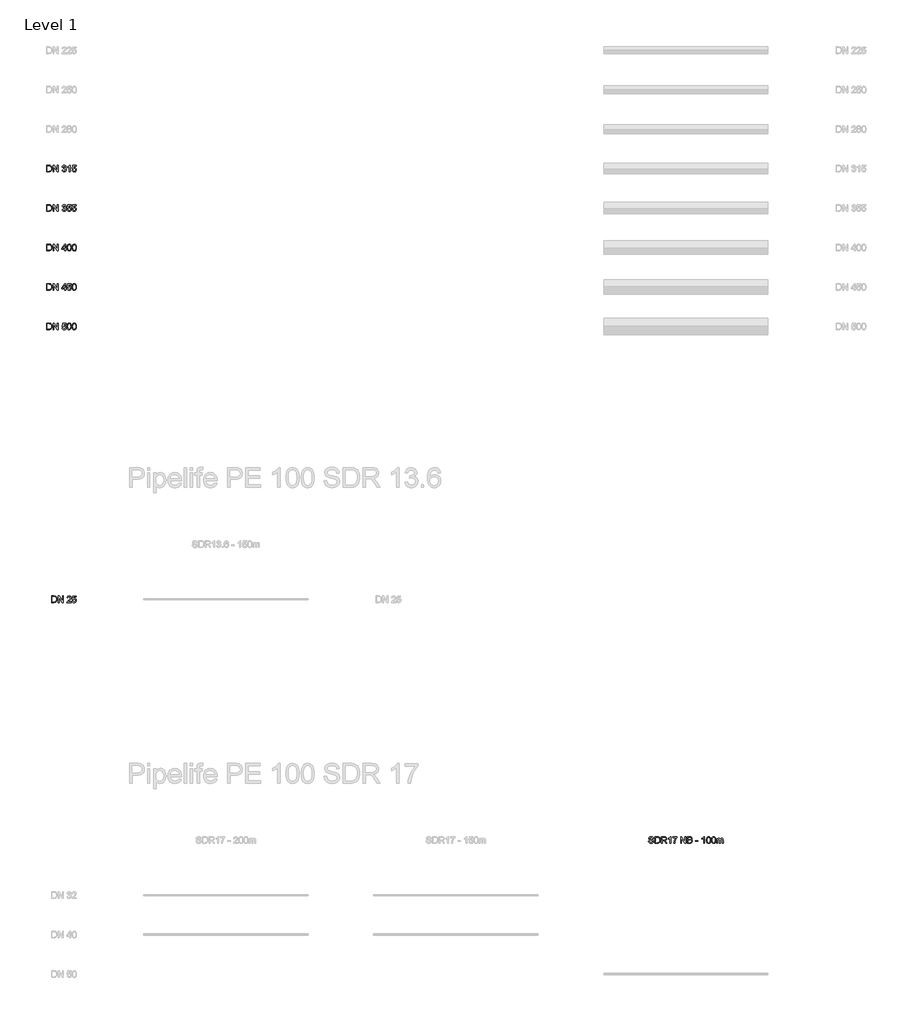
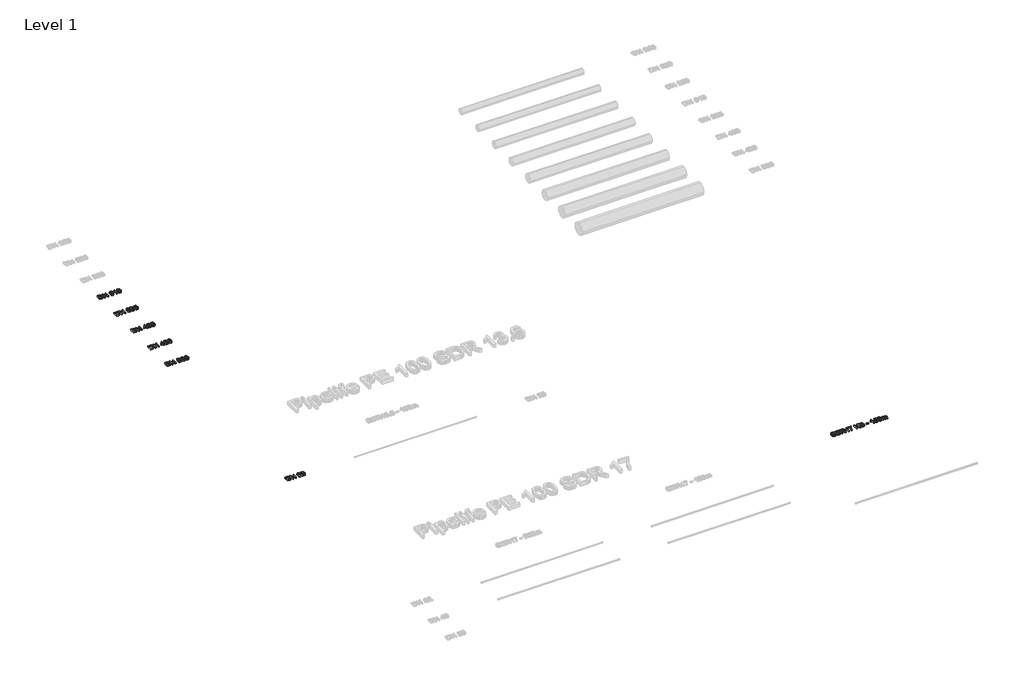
# One storey, part 15 of 26: 7 proxies.
"""IFC4 building model written with IfcOpenShell, lengths in millimetres."""

from ifc_helpers import new_model, si_unit, origin, origin_with_axes, place, context, project, spatial, polyline, outline, extrude, element, save

model = new_model("IFC4")

# Units and contexts
model_context = context("Model", 3, world=origin())
ifc_project = project(units=[si_unit("LENGTHUNIT", "METRE", prefix="MILLI")], contexts=[model_context])

# Site, building, storey
site = spatial("IfcSite", under=ifc_project)
building = spatial("IfcBuilding", under=site)
storey = spatial("IfcBuildingStorey", under=building, Name="Level 1", Elevation=0.0)

# Proxies
placement = place(None, origin())
element("IfcBuildingElementProxy", 1, Name="200mm Arial", ObjectType="200mm Arial", at=placement, inside=storey, context=model_context, shape_type="SweptSolid", body=[
    extrude(outline(polyline([(-19491.3116028, -16313.949573), (-19491.3116028, -16113.0369527), (-19422.0026349, -16113.0369527), (-19386.1464031, -16115.9309577), (-19370.1312736, -16121.5105013), (-19356.6177416, -16130.302881), (-19342.724065, -16145.606772), (-19332.8280393, -16164.6385338), (-19326.9051392, -16187.0302846), (-19324.9308391, -16212.4141423), (-19330.2773908, -16252.9547382), (-19344.0116519, -16282.2136195), (-19362.3567008, -16300.436041), (-19386.3671323, -16310.5160077), (-19418.6671715, -16313.949573), (-19491.3116028, -16313.949573)]), holes=[polyline([(-19466.1975253, -16288.8354954), (-19421.7573803, -16288.8354954), (-19389.4328156, -16285.2057264), (-19370.7934612, -16274.9540815), (-19362.0685265, -16264.0831685), (-19355.5140957, -16250.0116822), (-19351.4122114, -16232.6783089), (-19350.0449167, -16212.0217348), (-19352.7243239, -16184.6513144), (-19360.7625455, -16164.4423301), (-19372.6390025, -16150.5609162), (-19386.8331162, -16142.1732067), (-19422.4440933, -16138.1510302), (-19466.1975253, -16138.1510302), (-19466.1975253, -16288.8354954)])]), origin_with_axes(), (0.0, 0.0, 1.0), 50.0),
    extrude(outline(polyline([(-19290.3989825, -16313.949573), (-19290.3989825, -16113.0369527), (-19263.5190714, -16113.0369527), (-19158.5500754, -16272.2072292), (-19158.5500754, -16113.0369527), (-19133.4359979, -16113.0369527), (-19133.4359979, -16313.949573), (-19160.315909, -16313.949573), (-19265.284905, -16154.7302454), (-19265.284905, -16313.949573), (-19290.3989825, -16313.949573)])), origin_with_axes(), (0.0, 0.0, 1.0), 50.0),
    extrude(outline(polyline([(-19020.422649, -16260.5821582), (-18995.3085714, -16257.4428985), (-18989.6861083, -16273.2250361), (-18981.451683, -16283.8813512), (-18970.2006253, -16289.9514041), (-18955.528265, -16291.9747551), (-18938.3113877, -16289.1911147), (-18925.0185849, -16280.8401934), (-18916.5205108, -16268.3812565), (-18913.6878195, -16253.2735692), (-18916.4959853, -16238.9323028), (-18924.920483, -16227.3011004), (-18937.6737255, -16219.5939726), (-18953.4681259, -16217.02493), (-18971.0774107, -16219.7717822), (-18968.2815075, -16194.6577047), (-18964.2593311, -16194.9520102), (-18949.2129575, -16193.1493885), (-18935.7607392, -16187.7415231), (-18926.2693837, -16178.5935242), (-18923.1055985, -16165.5705016), (-18925.3987296, -16154.7241141), (-18932.2781229, -16145.925603), (-18942.7750225, -16140.0946734), (-18955.9206725, -16138.1510302), (-18969.0908479, -16140.1130675), (-18979.8575277, -16145.9991794), (-18987.7179396, -16155.809366), (-18992.1693118, -16169.5436271), (-19017.2833893, -16166.4043674), (-19009.8889612, -16143.8532011), (-18996.7310485, -16127.0164685), (-18978.7293562, -16116.5318316), (-18956.8035893, -16113.0369527), (-18941.0153203, -16114.7598667), (-18926.5146384, -16119.9286087), (-18914.2886934, -16128.0833263), (-18905.3246354, -16138.7641669), (-18899.8247996, -16151.0698196), (-18897.991521, -16164.0989736), (-18899.7328291, -16176.2390794), (-18904.9567534, -16187.2510138), (-18913.5897176, -16196.6320047), (-18925.5581452, -16203.87928), (-18909.8373212, -16210.2313758), (-18898.1877247, -16221.0471064), (-18890.9772376, -16235.7378608), (-18888.5737419, -16253.7150276), (-18893.3807333, -16278.191443), (-18907.8017075, -16298.645682), (-18929.5680589, -16312.478045), (-18956.4111818, -16317.0888326), (-18980.6913935, -16313.1524953), (-19000.4589194, -16301.3434833), (-19014.2054433, -16283.2804773), (-19020.422649, -16260.5821582)])), origin_with_axes(), (0.0, 0.0, 1.0), 50.0),
    extrude(outline(polyline([(-18772.4211333, -16313.949573), (-18797.5352108, -16313.949573), (-18797.5352108, -16157.3789958), (-18821.3249132, -16174.3260931), (-18847.7633659, -16187.0057592), (-18847.7633659, -16163.2651077), (-18810.9506409, -16139.769711), (-18797.4800285, -16126.1948653), (-18788.6079411, -16113.0369527), (-18772.4211333, -16113.0369527), (-18772.4211333, -16313.949573)])), origin_with_axes(), (0.0, 0.0, 1.0), 50.0),
    extrude(outline(polyline([(-18712.7751992, -16260.5821582), (-18687.6611216, -16257.4428985), (-18683.0503339, -16272.5199289), (-18675.005981, -16283.3172655), (-18663.5648509, -16289.8103827), (-18648.763732, -16291.9747551), (-18630.7620397, -16288.9642541), (-18617.2730332, -16279.9327511), (-18608.8485355, -16265.9225785), (-18606.0403696, -16247.9760685), (-18608.6707259, -16231.0780222), (-18616.5617947, -16218.1531014), (-18629.7748897, -16209.9493329), (-18648.3713245, -16207.2147434), (-18670.4197188, -16211.5802764), (-18684.5218619, -16222.9110419), (-18709.6359395, -16219.7717822), (-18687.6611216, -16116.1762123), (-18590.3440712, -16116.1762123), (-18590.3440712, -16141.2902899), (-18667.3540355, -16141.2902899), (-18678.0961897, -16196.619742), (-18660.1558111, -16185.7304349), (-18641.3570412, -16182.1006659), (-18617.8923012, -16186.601089), (-18598.4129496, -16200.1023582), (-18585.2979565, -16220.6792244), (-18580.9262921, -16246.4064386), (-18584.8626294, -16271.5205162), (-18596.6716415, -16293.0048247), (-18607.1072274, -16303.5415782), (-18619.2841214, -16311.0678307), (-18633.2023236, -16315.5835821), (-18648.8618339, -16317.0888326), (-18673.5283216, -16313.2199403), (-18693.1793515, -16301.6132634), (-18706.6499639, -16283.6177025), (-18712.7751992, -16260.5821582)])), origin_with_axes(), (0.0, 0.0, 1.0), 50.0),
])
element("IfcBuildingElementProxy", 2, Name="200mm Arial", ObjectType="200mm Arial", at=placement, inside=storey, context=model_context, shape_type="SweptSolid", body=[
    extrude(outline(polyline([(-19491.3116028, -18713.949573), (-19491.3116028, -18513.0369527), (-19422.0026349, -18513.0369527), (-19386.1464031, -18515.9309577), (-19370.1312736, -18521.5105013), (-19356.6177416, -18530.302881), (-19342.724065, -18545.606772), (-19332.8280393, -18564.6385338), (-19326.9051392, -18587.0302846), (-19324.9308391, -18612.4141423), (-19330.2773908, -18652.9547382), (-19344.0116519, -18682.2136195), (-19362.3567008, -18700.436041), (-19386.3671323, -18710.5160077), (-19418.6671715, -18713.949573), (-19491.3116028, -18713.949573)]), holes=[polyline([(-19466.1975253, -18688.8354954), (-19421.7573803, -18688.8354954), (-19389.4328156, -18685.2057264), (-19370.7934612, -18674.9540815), (-19362.0685265, -18664.0831685), (-19355.5140957, -18650.0116822), (-19351.4122114, -18632.6783089), (-19350.0449167, -18612.0217348), (-19352.7243239, -18584.6513144), (-19360.7625455, -18564.4423301), (-19372.6390025, -18550.5609162), (-19386.8331162, -18542.1732067), (-19422.4440933, -18538.1510302), (-19466.1975253, -18538.1510302), (-19466.1975253, -18688.8354954)])]), origin_with_axes(), (0.0, 0.0, 1.0), 50.0),
    extrude(outline(polyline([(-19290.3989825, -18713.949573), (-19290.3989825, -18513.0369527), (-19263.5190714, -18513.0369527), (-19158.5500754, -18672.2072292), (-19158.5500754, -18513.0369527), (-19133.4359979, -18513.0369527), (-19133.4359979, -18713.949573), (-19160.315909, -18713.949573), (-19265.284905, -18554.7302454), (-19265.284905, -18713.949573), (-19290.3989825, -18713.949573)])), origin_with_axes(), (0.0, 0.0, 1.0), 50.0),
    extrude(outline(polyline([(-18938.801897, -18713.949573), (-18938.801897, -18666.8606776), (-19029.8404281, -18666.8606776), (-19029.8404281, -18641.7466), (-18932.5233776, -18516.1762123), (-18913.6878195, -18516.1762123), (-18913.6878195, -18641.7466), (-18888.5737419, -18641.7466), (-18888.5737419, -18666.8606776), (-18913.6878195, -18666.8606776), (-18913.6878195, -18713.949573), (-18938.801897, -18713.949573)]), holes=[polyline([(-18938.801897, -18641.7466), (-18938.801897, -18564.1480245), (-18998.9383405, -18641.7466), (-18938.801897, -18641.7466)])]), origin_with_axes(), (0.0, 0.0, 1.0), 50.0),
    extrude(outline(polyline([(-18866.5989241, -18615.1119436), (-18864.7533827, -18582.9529258), (-18859.2167587, -18557.3054194), (-18850.0442343, -18537.7770168), (-18837.2909918, -18523.9753106), (-18820.8650607, -18515.7715422), (-18800.6744705, -18513.0369527), (-18785.1989013, -18514.6556334), (-18771.3420128, -18519.5116758), (-18759.7537299, -18527.4150073), (-18751.0839776, -18538.1755557), (-18739.3117537, -18567.9004209), (-18734.750017, -18615.1119436), (-18736.5771642, -18647.0870203), (-18742.058606, -18672.6732131), (-18751.1759481, -18692.2200098), (-18763.9107965, -18706.0768983), (-18780.3735158, -18714.335849), (-18800.6744705, -18717.0888326), (-18826.7695667, -18712.3063667), (-18846.5861435, -18697.9589689), (-18855.341735, -18682.8298218), (-18861.5957289, -18663.9789353), (-18866.5989241, -18615.1119436)]), holes=[polyline([(-18841.4848465, -18615.0628927), (-18838.5417906, -18654.5672876), (-18829.7126227, -18677.4311536), (-18816.5669727, -18688.3388547), (-18800.6744705, -18691.9747551), (-18784.7819683, -18688.326592), (-18771.6363184, -18677.3821026), (-18762.8071505, -18654.5059739), (-18759.8640945, -18615.0628927), (-18762.7090486, -18576.4475459), (-18771.2439109, -18553.4058703), (-18784.3650354, -18541.9647402), (-18800.9687761, -18538.1510302), (-18816.6896001, -18541.5110191), (-18829.3202152, -18551.5909857), (-18838.4436887, -18576.0674012), (-18841.4848465, -18615.0628927)])]), origin_with_axes(), (0.0, 0.0, 1.0), 50.0),
    extrude(outline(polyline([(-18712.7751992, -18615.1119436), (-18710.9296578, -18582.9529258), (-18705.3930338, -18557.3054194), (-18696.2205094, -18537.7770168), (-18683.4672669, -18523.9753106), (-18667.0413358, -18515.7715422), (-18646.8507456, -18513.0369527), (-18631.3751764, -18514.6556334), (-18617.5182879, -18519.5116758), (-18605.930005, -18527.4150073), (-18597.2602527, -18538.1755557), (-18585.4880288, -18567.9004209), (-18580.9262921, -18615.1119436), (-18582.7534393, -18647.0870203), (-18588.2348811, -18672.6732131), (-18597.3522232, -18692.2200098), (-18610.0870716, -18706.0768983), (-18626.5497909, -18714.335849), (-18646.8507456, -18717.0888326), (-18672.9458418, -18712.3063667), (-18692.7624186, -18697.9589689), (-18701.5180101, -18682.8298218), (-18707.772004, -18663.9789353), (-18712.7751992, -18615.1119436)]), holes=[polyline([(-18687.6611216, -18615.0628927), (-18684.7180657, -18654.5672876), (-18675.8888978, -18677.4311536), (-18662.7432478, -18688.3388547), (-18646.8507456, -18691.9747551), (-18630.9582434, -18688.326592), (-18617.8125935, -18677.3821026), (-18608.9834256, -18654.5059739), (-18606.0403696, -18615.0628927), (-18608.8853237, -18576.4475459), (-18617.420186, -18553.4058703), (-18630.5413105, -18541.9647402), (-18647.1450512, -18538.1510302), (-18662.8658751, -18541.5110191), (-18675.4964903, -18551.5909857), (-18684.6199638, -18576.0674012), (-18687.6611216, -18615.0628927)])]), origin_with_axes(), (0.0, 0.0, 1.0), 50.0),
])
element("IfcBuildingElementProxy", 3, Name="200mm Arial", ObjectType="200mm Arial", at=placement, inside=storey, context=model_context, shape_type="SweptSolid", body=[
    extrude(outline(polyline([(-19491.3116028, -17513.949573), (-19491.3116028, -17313.0369527), (-19422.0026349, -17313.0369527), (-19386.1464031, -17315.9309577), (-19370.1312736, -17321.5105013), (-19356.6177416, -17330.302881), (-19342.724065, -17345.606772), (-19332.8280393, -17364.6385338), (-19326.9051392, -17387.0302846), (-19324.9308391, -17412.4141423), (-19330.2773908, -17452.9547382), (-19344.0116519, -17482.2136195), (-19362.3567008, -17500.436041), (-19386.3671323, -17510.5160077), (-19418.6671715, -17513.949573), (-19491.3116028, -17513.949573)]), holes=[polyline([(-19466.1975253, -17488.8354954), (-19421.7573803, -17488.8354954), (-19389.4328156, -17485.2057264), (-19370.7934612, -17474.9540815), (-19362.0685265, -17464.0831685), (-19355.5140957, -17450.0116822), (-19351.4122114, -17432.6783089), (-19350.0449167, -17412.0217348), (-19352.7243239, -17384.6513144), (-19360.7625455, -17364.4423301), (-19372.6390025, -17350.5609162), (-19386.8331162, -17342.1732067), (-19422.4440933, -17338.1510302), (-19466.1975253, -17338.1510302), (-19466.1975253, -17488.8354954)])]), origin_with_axes(), (0.0, 0.0, 1.0), 50.0),
    extrude(outline(polyline([(-19290.3989825, -17513.949573), (-19290.3989825, -17313.0369527), (-19263.5190714, -17313.0369527), (-19158.5500754, -17472.2072292), (-19158.5500754, -17313.0369527), (-19133.4359979, -17313.0369527), (-19133.4359979, -17513.949573), (-19160.315909, -17513.949573), (-19265.284905, -17354.7302454), (-19265.284905, -17513.949573), (-19290.3989825, -17513.949573)])), origin_with_axes(), (0.0, 0.0, 1.0), 50.0),
    extrude(outline(polyline([(-19020.422649, -17460.5821582), (-18995.3085714, -17457.4428985), (-18989.6861083, -17473.2250361), (-18981.451683, -17483.8813512), (-18970.2006253, -17489.9514041), (-18955.528265, -17491.9747551), (-18938.3113877, -17489.1911147), (-18925.0185849, -17480.8401934), (-18916.5205108, -17468.3812565), (-18913.6878195, -17453.2735692), (-18916.4959853, -17438.9323028), (-18924.920483, -17427.3011004), (-18937.6737255, -17419.5939726), (-18953.4681259, -17417.02493), (-18971.0774107, -17419.7717822), (-18968.2815075, -17394.6577047), (-18964.2593311, -17394.9520102), (-18949.2129575, -17393.1493885), (-18935.7607392, -17387.7415231), (-18926.2693837, -17378.5935242), (-18923.1055985, -17365.5705016), (-18925.3987296, -17354.7241141), (-18932.2781229, -17345.925603), (-18942.7750225, -17340.0946734), (-18955.9206725, -17338.1510302), (-18969.0908479, -17340.1130675), (-18979.8575277, -17345.9991794), (-18987.7179396, -17355.809366), (-18992.1693118, -17369.5436271), (-19017.2833893, -17366.4043674), (-19009.8889612, -17343.8532011), (-18996.7310485, -17327.0164685), (-18978.7293562, -17316.5318316), (-18956.8035893, -17313.0369527), (-18941.0153203, -17314.7598667), (-18926.5146384, -17319.9286087), (-18914.2886934, -17328.0833263), (-18905.3246354, -17338.7641669), (-18899.8247996, -17351.0698196), (-18897.991521, -17364.0989736), (-18899.7328291, -17376.2390794), (-18904.9567534, -17387.2510138), (-18913.5897176, -17396.6320047), (-18925.5581452, -17403.87928), (-18909.8373212, -17410.2313758), (-18898.1877247, -17421.0471064), (-18890.9772376, -17435.7378608), (-18888.5737419, -17453.7150276), (-18893.3807333, -17478.191443), (-18907.8017075, -17498.645682), (-18929.5680589, -17512.478045), (-18956.4111818, -17517.0888326), (-18980.6913935, -17513.1524953), (-19000.4589194, -17501.3434833), (-19014.2054433, -17483.2804773), (-19020.422649, -17460.5821582)])), origin_with_axes(), (0.0, 0.0, 1.0), 50.0),
    extrude(outline(polyline([(-18866.5989241, -17460.5821582), (-18841.4848465, -17457.4428985), (-18836.8740589, -17472.5199289), (-18828.8297059, -17483.3172655), (-18817.3885758, -17489.8103827), (-18802.5874569, -17491.9747551), (-18784.5857646, -17488.9642541), (-18771.0967581, -17479.9327511), (-18762.6722604, -17465.9225785), (-18759.8640945, -17447.9760685), (-18762.4944508, -17431.0780222), (-18770.3855196, -17418.1531014), (-18783.5986146, -17409.9493329), (-18802.1950494, -17407.2147434), (-18824.2434437, -17411.5802764), (-18838.3455868, -17422.9110419), (-18863.4596644, -17419.7717822), (-18841.4848465, -17316.1762123), (-18744.1677961, -17316.1762123), (-18744.1677961, -17341.2902899), (-18821.1777604, -17341.2902899), (-18831.9199147, -17396.619742), (-18813.979536, -17385.7304349), (-18795.1807661, -17382.1006659), (-18771.7160261, -17386.601089), (-18752.2366745, -17400.1023582), (-18739.1216814, -17420.6792244), (-18734.750017, -17446.4064386), (-18738.6863543, -17471.5205162), (-18750.4953664, -17493.0048247), (-18760.9309523, -17503.5415782), (-18773.1078464, -17511.0678307), (-18787.0260485, -17515.5835821), (-18802.6855588, -17517.0888326), (-18827.3520466, -17513.2199403), (-18847.0030765, -17501.6132634), (-18860.4736888, -17483.6177025), (-18866.5989241, -17460.5821582)])), origin_with_axes(), (0.0, 0.0, 1.0), 50.0),
    extrude(outline(polyline([(-18712.7751992, -17460.5821582), (-18687.6611216, -17457.4428985), (-18683.0503339, -17472.5199289), (-18675.005981, -17483.3172655), (-18663.5648509, -17489.8103827), (-18648.763732, -17491.9747551), (-18630.7620397, -17488.9642541), (-18617.2730332, -17479.9327511), (-18608.8485355, -17465.9225785), (-18606.0403696, -17447.9760685), (-18608.6707259, -17431.0780222), (-18616.5617947, -17418.1531014), (-18629.7748897, -17409.9493329), (-18648.3713245, -17407.2147434), (-18670.4197188, -17411.5802764), (-18684.5218619, -17422.9110419), (-18709.6359395, -17419.7717822), (-18687.6611216, -17316.1762123), (-18590.3440712, -17316.1762123), (-18590.3440712, -17341.2902899), (-18667.3540355, -17341.2902899), (-18678.0961897, -17396.619742), (-18660.1558111, -17385.7304349), (-18641.3570412, -17382.1006659), (-18617.8923012, -17386.601089), (-18598.4129496, -17400.1023582), (-18585.2979565, -17420.6792244), (-18580.9262921, -17446.4064386), (-18584.8626294, -17471.5205162), (-18596.6716415, -17493.0048247), (-18607.1072274, -17503.5415782), (-18619.2841214, -17511.0678307), (-18633.2023236, -17515.5835821), (-18648.8618339, -17517.0888326), (-18673.5283216, -17513.2199403), (-18693.1793515, -17501.6132634), (-18706.6499639, -17483.6177025), (-18712.7751992, -17460.5821582)])), origin_with_axes(), (0.0, 0.0, 1.0), 50.0),
])
element("IfcBuildingElementProxy", 4, Name="200mm Arial", ObjectType="200mm Arial", at=placement, inside=storey, context=model_context, shape_type="SweptSolid", body=[
    extrude(outline(polyline([(-19491.3116028, -21113.949573), (-19491.3116028, -20913.0369527), (-19422.0026349, -20913.0369527), (-19386.1464031, -20915.9309577), (-19370.1312736, -20921.5105013), (-19356.6177416, -20930.302881), (-19342.724065, -20945.606772), (-19332.8280393, -20964.6385338), (-19326.9051392, -20987.0302846), (-19324.9308391, -21012.4141423), (-19330.2773908, -21052.9547382), (-19344.0116519, -21082.2136195), (-19362.3567008, -21100.436041), (-19386.3671323, -21110.5160077), (-19418.6671715, -21113.949573), (-19491.3116028, -21113.949573)]), holes=[polyline([(-19466.1975253, -21088.8354954), (-19421.7573803, -21088.8354954), (-19389.4328156, -21085.2057264), (-19370.7934612, -21074.9540815), (-19362.0685265, -21064.0831685), (-19355.5140957, -21050.0116822), (-19351.4122114, -21032.6783089), (-19350.0449167, -21012.0217348), (-19352.7243239, -20984.6513144), (-19360.7625455, -20964.4423301), (-19372.6390025, -20950.5609162), (-19386.8331162, -20942.1732067), (-19422.4440933, -20938.1510302), (-19466.1975253, -20938.1510302), (-19466.1975253, -21088.8354954)])]), origin_with_axes(), (0.0, 0.0, 1.0), 50.0),
    extrude(outline(polyline([(-19290.3989825, -21113.949573), (-19290.3989825, -20913.0369527), (-19263.5190714, -20913.0369527), (-19158.5500754, -21072.2072292), (-19158.5500754, -20913.0369527), (-19133.4359979, -20913.0369527), (-19133.4359979, -21113.949573), (-19160.315909, -21113.949573), (-19265.284905, -20954.7302454), (-19265.284905, -21113.949573), (-19290.3989825, -21113.949573)])), origin_with_axes(), (0.0, 0.0, 1.0), 50.0),
    extrude(outline(polyline([(-19020.422649, -21060.5821582), (-18995.3085714, -21057.4428985), (-18990.6977838, -21072.5199289), (-18982.6534308, -21083.3172655), (-18971.2123008, -21089.8103827), (-18956.4111818, -21091.9747551), (-18938.4094895, -21088.9642541), (-18924.920483, -21079.9327511), (-18916.4959853, -21065.9225785), (-18913.6878195, -21047.9760685), (-18916.3181757, -21031.0780222), (-18924.2092445, -21018.1531014), (-18937.4223395, -21009.9493329), (-18956.0187744, -21007.2147434), (-18978.0671686, -21011.5802764), (-18992.1693118, -21022.9110419), (-19017.2833893, -21019.7717822), (-18995.3085714, -20916.1762123), (-18897.991521, -20916.1762123), (-18897.991521, -20941.2902899), (-18975.0014853, -20941.2902899), (-18985.7436396, -20996.619742), (-18967.8032609, -20985.7304349), (-18949.004491, -20982.1006659), (-18925.5397511, -20986.601089), (-18906.0603994, -21000.1023582), (-18892.9454063, -21020.6792244), (-18888.5737419, -21046.4064386), (-18892.5100793, -21071.5205162), (-18904.3190913, -21093.0048247), (-18914.7546772, -21103.5415782), (-18926.9315713, -21111.0678307), (-18940.8497734, -21115.5835821), (-18956.5092837, -21117.0888326), (-18981.1757715, -21113.2199403), (-19000.8268014, -21101.6132634), (-19014.2974138, -21083.6177025), (-19020.422649, -21060.5821582)])), origin_with_axes(), (0.0, 0.0, 1.0), 50.0),
    extrude(outline(polyline([(-18866.5989241, -21015.1119436), (-18864.7533827, -20982.9529258), (-18859.2167587, -20957.3054194), (-18850.0442343, -20937.7770168), (-18837.2909918, -20923.9753106), (-18820.8650607, -20915.7715422), (-18800.6744705, -20913.0369527), (-18785.1989013, -20914.6556334), (-18771.3420128, -20919.5116758), (-18759.7537299, -20927.4150073), (-18751.0839776, -20938.1755557), (-18739.3117537, -20967.9004209), (-18734.750017, -21015.1119436), (-18736.5771642, -21047.0870203), (-18742.058606, -21072.6732131), (-18751.1759481, -21092.2200098), (-18763.9107965, -21106.0768983), (-18780.3735158, -21114.335849), (-18800.6744705, -21117.0888326), (-18826.7695667, -21112.3063667), (-18846.5861435, -21097.9589689), (-18855.341735, -21082.8298218), (-18861.5957289, -21063.9789353), (-18866.5989241, -21015.1119436)]), holes=[polyline([(-18841.4848465, -21015.0628927), (-18838.5417906, -21054.5672876), (-18829.7126227, -21077.4311536), (-18816.5669727, -21088.3388547), (-18800.6744705, -21091.9747551), (-18784.7819683, -21088.326592), (-18771.6363184, -21077.3821026), (-18762.8071505, -21054.5059739), (-18759.8640945, -21015.0628927), (-18762.7090486, -20976.4475459), (-18771.2439109, -20953.4058703), (-18784.3650354, -20941.9647402), (-18800.9687761, -20938.1510302), (-18816.6896001, -20941.5110191), (-18829.3202152, -20951.5909857), (-18838.4436887, -20976.0674012), (-18841.4848465, -21015.0628927)])]), origin_with_axes(), (0.0, 0.0, 1.0), 50.0),
    extrude(outline(polyline([(-18712.7751992, -21015.1119436), (-18710.9296578, -20982.9529258), (-18705.3930338, -20957.3054194), (-18696.2205094, -20937.7770168), (-18683.4672669, -20923.9753106), (-18667.0413358, -20915.7715422), (-18646.8507456, -20913.0369527), (-18631.3751764, -20914.6556334), (-18617.5182879, -20919.5116758), (-18605.930005, -20927.4150073), (-18597.2602527, -20938.1755557), (-18585.4880288, -20967.9004209), (-18580.9262921, -21015.1119436), (-18582.7534393, -21047.0870203), (-18588.2348811, -21072.6732131), (-18597.3522232, -21092.2200098), (-18610.0870716, -21106.0768983), (-18626.5497909, -21114.335849), (-18646.8507456, -21117.0888326), (-18672.9458418, -21112.3063667), (-18692.7624186, -21097.9589689), (-18701.5180101, -21082.8298218), (-18707.772004, -21063.9789353), (-18712.7751992, -21015.1119436)]), holes=[polyline([(-18687.6611216, -21015.0628927), (-18684.7180657, -21054.5672876), (-18675.8888978, -21077.4311536), (-18662.7432478, -21088.3388547), (-18646.8507456, -21091.9747551), (-18630.9582434, -21088.326592), (-18617.8125935, -21077.3821026), (-18608.9834256, -21054.5059739), (-18606.0403696, -21015.0628927), (-18608.8853237, -20976.4475459), (-18617.420186, -20953.4058703), (-18630.5413105, -20941.9647402), (-18647.1450512, -20938.1510302), (-18662.8658751, -20941.5110191), (-18675.4964903, -20951.5909857), (-18684.6199638, -20976.0674012), (-18687.6611216, -21015.0628927)])]), origin_with_axes(), (0.0, 0.0, 1.0), 50.0),
])
element("IfcBuildingElementProxy", 5, Name="200mm Arial", ObjectType="200mm Arial", at=placement, inside=storey, context=model_context, shape_type="SweptSolid", body=[
    extrude(outline(polyline([(-19491.3116028, -19913.949573), (-19491.3116028, -19713.0369527), (-19422.0026349, -19713.0369527), (-19386.1464031, -19715.9309577), (-19370.1312736, -19721.5105013), (-19356.6177416, -19730.302881), (-19342.724065, -19745.606772), (-19332.8280393, -19764.6385338), (-19326.9051392, -19787.0302846), (-19324.9308391, -19812.4141423), (-19330.2773908, -19852.9547382), (-19344.0116519, -19882.2136195), (-19362.3567008, -19900.436041), (-19386.3671323, -19910.5160077), (-19418.6671715, -19913.949573), (-19491.3116028, -19913.949573)]), holes=[polyline([(-19466.1975253, -19888.8354954), (-19421.7573803, -19888.8354954), (-19389.4328156, -19885.2057264), (-19370.7934612, -19874.9540815), (-19362.0685265, -19864.0831685), (-19355.5140957, -19850.0116822), (-19351.4122114, -19832.6783089), (-19350.0449167, -19812.0217348), (-19352.7243239, -19784.6513144), (-19360.7625455, -19764.4423301), (-19372.6390025, -19750.5609162), (-19386.8331162, -19742.1732067), (-19422.4440933, -19738.1510302), (-19466.1975253, -19738.1510302), (-19466.1975253, -19888.8354954)])]), origin_with_axes(), (0.0, 0.0, 1.0), 50.0),
    extrude(outline(polyline([(-19290.3989825, -19913.949573), (-19290.3989825, -19713.0369527), (-19263.5190714, -19713.0369527), (-19158.5500754, -19872.2072292), (-19158.5500754, -19713.0369527), (-19133.4359979, -19713.0369527), (-19133.4359979, -19913.949573), (-19160.315909, -19913.949573), (-19265.284905, -19754.7302454), (-19265.284905, -19913.949573), (-19290.3989825, -19913.949573)])), origin_with_axes(), (0.0, 0.0, 1.0), 50.0),
    extrude(outline(polyline([(-18938.801897, -19913.949573), (-18938.801897, -19866.8606776), (-19029.8404281, -19866.8606776), (-19029.8404281, -19841.7466), (-18932.5233776, -19716.1762123), (-18913.6878195, -19716.1762123), (-18913.6878195, -19841.7466), (-18888.5737419, -19841.7466), (-18888.5737419, -19866.8606776), (-18913.6878195, -19866.8606776), (-18913.6878195, -19913.949573), (-18938.801897, -19913.949573)]), holes=[polyline([(-18938.801897, -19841.7466), (-18938.801897, -19764.1480245), (-18998.9383405, -19841.7466), (-18938.801897, -19841.7466)])]), origin_with_axes(), (0.0, 0.0, 1.0), 50.0),
    extrude(outline(polyline([(-18866.5989241, -19860.5821582), (-18841.4848465, -19857.4428985), (-18836.8740589, -19872.5199289), (-18828.8297059, -19883.3172655), (-18817.3885758, -19889.8103827), (-18802.5874569, -19891.9747551), (-18784.5857646, -19888.9642541), (-18771.0967581, -19879.9327511), (-18762.6722604, -19865.9225785), (-18759.8640945, -19847.9760685), (-18762.4944508, -19831.0780222), (-18770.3855196, -19818.1531014), (-18783.5986146, -19809.9493329), (-18802.1950494, -19807.2147434), (-18824.2434437, -19811.5802764), (-18838.3455868, -19822.9110419), (-18863.4596644, -19819.7717822), (-18841.4848465, -19716.1762123), (-18744.1677961, -19716.1762123), (-18744.1677961, -19741.2902899), (-18821.1777604, -19741.2902899), (-18831.9199147, -19796.619742), (-18813.979536, -19785.7304349), (-18795.1807661, -19782.1006659), (-18771.7160261, -19786.601089), (-18752.2366745, -19800.1023582), (-18739.1216814, -19820.6792244), (-18734.750017, -19846.4064386), (-18738.6863543, -19871.5205162), (-18750.4953664, -19893.0048247), (-18760.9309523, -19903.5415782), (-18773.1078464, -19911.0678307), (-18787.0260485, -19915.5835821), (-18802.6855588, -19917.0888326), (-18827.3520466, -19913.2199403), (-18847.0030765, -19901.6132634), (-18860.4736888, -19883.6177025), (-18866.5989241, -19860.5821582)])), origin_with_axes(), (0.0, 0.0, 1.0), 50.0),
    extrude(outline(polyline([(-18712.7751992, -19815.1119436), (-18710.9296578, -19782.9529258), (-18705.3930338, -19757.3054194), (-18696.2205094, -19737.7770168), (-18683.4672669, -19723.9753106), (-18667.0413358, -19715.7715422), (-18646.8507456, -19713.0369527), (-18631.3751764, -19714.6556334), (-18617.5182879, -19719.5116758), (-18605.930005, -19727.4150073), (-18597.2602527, -19738.1755557), (-18585.4880288, -19767.9004209), (-18580.9262921, -19815.1119436), (-18582.7534393, -19847.0870203), (-18588.2348811, -19872.6732131), (-18597.3522232, -19892.2200098), (-18610.0870716, -19906.0768983), (-18626.5497909, -19914.335849), (-18646.8507456, -19917.0888326), (-18672.9458418, -19912.3063667), (-18692.7624186, -19897.9589689), (-18701.5180101, -19882.8298218), (-18707.772004, -19863.9789353), (-18712.7751992, -19815.1119436)]), holes=[polyline([(-18687.6611216, -19815.0628927), (-18684.7180657, -19854.5672876), (-18675.8888978, -19877.4311536), (-18662.7432478, -19888.3388547), (-18646.8507456, -19891.9747551), (-18630.9582434, -19888.326592), (-18617.8125935, -19877.3821026), (-18608.9834256, -19854.5059739), (-18606.0403696, -19815.0628927), (-18608.8853237, -19776.4475459), (-18617.420186, -19753.4058703), (-18630.5413105, -19741.9647402), (-18647.1450512, -19738.1510302), (-18662.8658751, -19741.5110191), (-18675.4964903, -19751.5909857), (-18684.6199638, -19776.0674012), (-18687.6611216, -19815.0628927)])]), origin_with_axes(), (0.0, 0.0, 1.0), 50.0),
])
element("IfcBuildingElementProxy", 6, Name="200mm Arial", ObjectType="200mm Arial", at=placement, inside=storey, context=model_context, shape_type="SweptSolid", body=[
    extrude(outline(polyline([(-19337.4878779, -29413.949573), (-19337.4878779, -29213.0369527), (-19268.17891, -29213.0369527), (-19232.3226782, -29215.9309577), (-19216.3075487, -29221.5105013), (-19202.7940167, -29230.302881), (-19188.90034, -29245.606772), (-19179.0043144, -29264.6385338), (-19173.0814143, -29287.0302846), (-19171.1071142, -29312.4141423), (-19176.4536659, -29352.9547382), (-19190.187927, -29382.2136195), (-19208.5329759, -29400.436041), (-19232.5434074, -29410.5160077), (-19264.8434466, -29413.949573), (-19337.4878779, -29413.949573)]), holes=[polyline([(-19312.3738004, -29388.8354954), (-19267.9336553, -29388.8354954), (-19235.6090907, -29385.2057264), (-19216.9697363, -29374.9540815), (-19208.2448016, -29364.0831685), (-19201.6903707, -29350.0116822), (-19197.5884865, -29332.6783089), (-19196.2211917, -29312.0217348), (-19198.9005989, -29284.6513144), (-19206.9388205, -29264.4423301), (-19218.8152776, -29250.5609162), (-19233.0093913, -29242.1732067), (-19268.6203684, -29238.1510302), (-19312.3738004, -29238.1510302), (-19312.3738004, -29388.8354954)])]), origin_with_axes(), (0.0, 0.0, 1.0), 50.0),
    extrude(outline(polyline([(-19136.5752576, -29413.949573), (-19136.5752576, -29213.0369527), (-19109.6953465, -29213.0369527), (-19004.7263505, -29372.2072292), (-19004.7263505, -29213.0369527), (-18979.612273, -29213.0369527), (-18979.612273, -29413.949573), (-19006.4921841, -29413.949573), (-19111.4611801, -29254.7302454), (-19111.4611801, -29413.949573), (-19136.5752576, -29413.949573)])), origin_with_axes(), (0.0, 0.0, 1.0), 50.0),
    extrude(outline(polyline([(-18737.8892767, -29388.8354954), (-18737.8892767, -29413.949573), (-18869.7381838, -29413.949573), (-18867.0403825, -29396.6345937), (-18851.7855424, -29369.9754118), (-18820.3438945, -29340.8636832), (-18776.98287, -29299.0232377), (-18768.852678, -29284.6022634), (-18766.1426139, -29270.5736967), (-18768.6993938, -29257.9982638), (-18776.3697334, -29247.5442838), (-18788.1603513, -29240.4993436), (-18803.0779662, -29238.1510302), (-18818.7436079, -29240.4441613), (-18830.9143705, -29247.3235546), (-18838.7686511, -29258.2496499), (-18841.4848465, -29272.6828868), (-18866.5989241, -29269.5436271), (-18860.510477, -29245.2511527), (-18847.346433, -29227.5069778), (-18827.7935049, -29216.6544589), (-18802.538406, -29213.0369527), (-18777.099366, -29217.0591291), (-18757.5832262, -29229.1256586), (-18745.1672088, -29247.1518763), (-18741.0285364, -29269.0531178), (-18745.4921713, -29292.8673456), (-18760.3300784, -29317.4909138), (-18796.3089375, -29351.9001431), (-18825.1999369, -29376.0577275), (-18836.5307023, -29388.8354954), (-18737.8892767, -29388.8354954)])), origin_with_axes(), (0.0, 0.0, 1.0), 50.0),
    extrude(outline(polyline([(-18712.7751992, -29360.5821582), (-18687.6611216, -29357.4428985), (-18683.0503339, -29372.5199289), (-18675.005981, -29383.3172655), (-18663.5648509, -29389.8103827), (-18648.763732, -29391.9747551), (-18630.7620397, -29388.9642541), (-18617.2730332, -29379.9327511), (-18608.8485355, -29365.9225785), (-18606.0403696, -29347.9760685), (-18608.6707259, -29331.0780222), (-18616.5617947, -29318.1531014), (-18629.7748897, -29309.9493329), (-18648.3713245, -29307.2147434), (-18670.4197188, -29311.5802764), (-18684.5218619, -29322.9110419), (-18709.6359395, -29319.7717822), (-18687.6611216, -29216.1762123), (-18590.3440712, -29216.1762123), (-18590.3440712, -29241.2902899), (-18667.3540355, -29241.2902899), (-18678.0961897, -29296.619742), (-18660.1558111, -29285.7304349), (-18641.3570412, -29282.1006659), (-18617.8923012, -29286.601089), (-18598.4129496, -29300.1023582), (-18585.2979565, -29320.6792244), (-18580.9262921, -29346.4064386), (-18584.8626294, -29371.5205162), (-18596.6716415, -29393.0048247), (-18607.1072274, -29403.5415782), (-18619.2841214, -29411.0678307), (-18633.2023236, -29415.5835821), (-18648.8618339, -29417.0888326), (-18673.5283216, -29413.2199403), (-18693.1793515, -29401.6132634), (-18706.6499639, -29383.6177025), (-18712.7751992, -29360.5821582)])), origin_with_axes(), (0.0, 0.0, 1.0), 50.0),
])
element("IfcBuildingElementProxy", 7, Name="200mm Arial", ObjectType="200mm Arial", at=placement, inside=storey, context=model_context, shape_type="SweptSolid", body=[
    extrude(outline(polyline([(-1172.2183935, -36668.9871574), (-1147.1043159, -36668.9871574), (-1139.010912, -36694.1257604), (-1130.88072, -36703.016242), (-1119.2433862, -36710.0182626), (-1105.0186157, -36714.5616053), (-1089.1261135, -36716.0760528), (-1062.8838645, -36711.4897906), (-1045.9367673, -36698.8837009), (-1040.3694864, -36682.0347055), (-1044.5388157, -36666.3629325), (-1050.8909115, -36660.1641209), (-1061.6085403, -36654.9585907), (-1098.1760106, -36645.3691333), (-1137.5393841, -36632.9837728), (-1150.0412405, -36624.5347497), (-1158.9010653, -36614.2953675), (-1164.1801719, -36602.4863554), (-1165.9398741, -36589.3284427), (-1163.763239, -36574.6192943), (-1157.2333335, -36560.9034272), (-1146.5218361, -36549.2783562), (-1131.8004249, -36540.8415958), (-1114.1298264, -36535.7096419), (-1094.570767, -36533.9989907), (-1073.3807641, -36535.7893497), (-1054.8395115, -36541.1604268), (-1039.6091969, -36550.0018575), (-1028.3520079, -36562.203277), (-1021.2273599, -36577.0043959), (-1018.3946686, -36593.6449248), (-1043.5087461, -36593.6449248), (-1048.1195338, -36578.6598649), (-1057.7335166, -36567.8441342), (-1072.7553647, -36561.2958347), (-1093.5897484, -36559.1130682), (-1114.9146414, -36561.2713092), (-1129.544082, -36567.7460324), (-1138.0053679, -36577.274176), (-1140.8257966, -36588.5926788), (-1138.826971, -36598.2434498), (-1132.8304945, -36606.0057599), (-1118.654775, -36612.9464668), (-1091.8239148, -36620.0343266), (-1047.3837698, -36632.6404163), (-1033.0670288, -36641.7516271), (-1023.0790326, -36652.9965534), (-1017.2113148, -36666.2525679), (-1015.2554089, -36681.3970434), (-1017.5056204, -36696.878744), (-1024.256255, -36711.4407397), (-1035.2314012, -36723.973253), (-1050.1551475, -36733.3665066), (-1068.1016575, -36739.2342244), (-1088.1450948, -36741.1901304), (-1112.750269, -36739.0809402), (-1133.0021728, -36732.7533699), (-1149.1337983, -36722.1828939), (-1161.3781374, -36707.3449868), (-1169.2385493, -36689.2697181), (-1172.2183935, -36668.9871574)])), origin_with_axes(), (0.0, 0.0, 1.0), 50.0),
    extrude(outline(polyline([(-977.5842926, -36738.0508707), (-977.5842926, -36537.1382504), (-908.2753247, -36537.1382504), (-872.4190929, -36540.0322554), (-856.4039633, -36545.611799), (-842.8904314, -36554.4041787), (-828.9967547, -36569.7080697), (-819.100729, -36588.7398315), (-813.1778289, -36611.1315823), (-811.2035289, -36636.51544), (-816.5500805, -36677.0560359), (-830.2843417, -36706.3149172), (-848.6293905, -36724.5373387), (-872.6398221, -36734.6173054), (-904.9398612, -36738.0508707), (-977.5842926, -36738.0508707)]), holes=[polyline([(-952.470215, -36712.9367931), (-908.03007, -36712.9367931), (-875.7055054, -36709.3070241), (-857.0661509, -36699.0553792), (-848.3412163, -36688.1844662), (-841.7867854, -36674.1129799), (-837.6849012, -36656.7796066), (-836.3176064, -36636.1230325), (-838.9970136, -36608.7526121), (-847.0352352, -36588.5436278), (-858.9116923, -36574.6622139), (-873.1058059, -36566.2745044), (-908.7167831, -36562.2523279), (-952.470215, -36562.2523279), (-952.470215, -36712.9367931)])]), origin_with_axes(), (0.0, 0.0, 1.0), 50.0),
    extrude(outline(polyline([(-776.6716723, -36738.0508707), (-776.6716723, -36537.1382504), (-690.0967761, -36537.1382504), (-666.8282399, -36538.4932824), (-649.8995367, -36542.5583784), (-637.526439, -36550.0631711), (-627.9247189, -36561.7372931), (-621.7626955, -36576.2134496), (-619.7086877, -36592.1243459), (-623.1115961, -36611.9163972), (-633.3203215, -36628.3239342), (-650.6414321, -36640.3536755), (-675.3814963, -36647.0123396), (-661.1076748, -36657.7544938), (-640.7515378, -36683.6043354), (-607.2497507, -36738.0508707), (-636.4350557, -36738.0508707), (-662.5792028, -36696.4066288), (-681.4638119, -36668.8400046), (-694.7320892, -36655.816982), (-706.6759913, -36651.0345161), (-721.2441183, -36650.1515993), (-751.5575947, -36650.1515993), (-751.5575947, -36738.0508707), (-776.6716723, -36738.0508707)]), holes=[polyline([(-751.5575947, -36625.0375217), (-695.3452259, -36625.0375217), (-666.6749557, -36621.4813291), (-657.2449139, -36616.8582787), (-650.3900461, -36610.1015127), (-644.8227652, -36593.0563136), (-647.4776469, -36580.8058432), (-655.4422921, -36570.934343), (-669.1458964, -36564.4228317), (-689.0176555, -36562.2523279), (-751.5575947, -36562.2523279), (-751.5575947, -36625.0375217)])]), origin_with_axes(), (0.0, 0.0, 1.0), 50.0),
    extrude(outline(polyline([(-490.9990403, -36738.0508707), (-516.1131178, -36738.0508707), (-516.1131178, -36581.4802935), (-539.9028202, -36598.4273908), (-566.3412729, -36611.1070569), (-566.3412729, -36587.3664054), (-529.5285479, -36563.8710087), (-516.0579355, -36550.2961631), (-507.1858481, -36537.1382504), (-490.9990403, -36537.1382504), (-490.9990403, -36738.0508707)])), origin_with_axes(), (0.0, 0.0, 1.0), 50.0),
    extrude(outline(polyline([(-431.3531061, -36565.3915876), (-431.3531061, -36540.2775101), (-299.5041991, -36540.2775101), (-299.5041991, -36560.5845962), (-318.2968376, -36584.3681672), (-336.9055352, -36614.6141985), (-353.3192036, -36648.5635753), (-365.5267545, -36683.4571826), (-374.8464317, -36738.0508707), (-399.9605092, -36738.0508707), (-397.2443138, -36712.1642409), (-389.9786444, -36681.3970434), (-378.3597047, -36648.7843045), (-362.5836985, -36617.3610508), (-344.1650733, -36588.9544294), (-324.6182766, -36565.3915876), (-431.3531061, -36565.3915876)])), origin_with_axes(), (0.0, 0.0, 1.0), 50.0),
    extrude(outline(polyline([(-189.6301098, -36738.0508707), (-189.6301098, -36537.1382504), (-162.7501987, -36537.1382504), (-57.7812028, -36696.3085269), (-57.7812028, -36537.1382504), (-32.6671252, -36537.1382504), (-32.6671252, -36738.0508707), (-59.5470363, -36738.0508707), (-164.5160323, -36578.8315431), (-164.5160323, -36738.0508707), (-189.6301098, -36738.0508707)])), origin_with_axes(), (0.0, 0.0, 1.0), 50.0),
    extrude(outline(polyline([(11.2825105, -36738.0508707), (11.2825105, -36537.1382504), (87.9491183, -36537.1382504), (109.034888, -36538.6159097), (125.4976072, -36543.0488877), (138.1159597, -36550.5475491), (147.6686288, -36561.2222583), (153.6834994, -36573.7792971), (155.6884563, -36586.924947), (154.0023305, -36599.0221333), (148.9439531, -36610.3958183), (140.4765358, -36620.3470263), (128.5632905, -36628.1767814), (142.7941924, -36635.6079977), (153.3094861, -36646.9142377), (159.8026033, -36661.3474747), (161.9669757, -36678.1596818), (156.0563383, -36705.1622203), (141.4146349, -36724.3901859), (119.5624444, -36734.5927799), (87.3605071, -36738.0508707), (11.2825105, -36738.0508707)]), holes=[polyline([(36.396588, -36712.9367931), (87.9000673, -36712.9367931), (106.5394218, -36711.9557745), (122.3092966, -36706.4865955), (132.7571453, -36695.3275083), (136.8528982, -36678.4049365), (132.0459068, -36658.8826653), (125.7489933, -36651.8254624), (116.4722356, -36647.2330688), (85.4475207, -36643.8730799), (36.396588, -36643.8730799), (36.396588, -36712.9367931)]), polyline([(36.396588, -36618.7590024), (82.2592101, -36618.7590024), (109.0410193, -36616.6007613), (125.1542507, -36607.3056096), (130.5743788, -36590.9471235), (125.5221327, -36574.564112), (111.0521076, -36564.8765528), (78.7765939, -36562.2523279), (36.396588, -36562.2523279), (36.396588, -36618.7590024)])]), origin_with_axes(), (0.0, 0.0, 1.0), 50.0),
    extrude(outline(polyline([(259.2840262, -36678.4049365), (259.2840262, -36653.290859), (337.7655185, -36653.290859), (337.7655185, -36678.4049365), (259.2840262, -36678.4049365)])), origin_with_axes(), (0.0, 0.0, 1.0), 50.0),
    extrude(outline(polyline([(532.3996194, -36738.0508707), (507.2855418, -36738.0508707), (507.2855418, -36581.4802935), (483.4958395, -36598.4273908), (457.0573868, -36611.1070569), (457.0573868, -36587.3664054), (493.8701117, -36563.8710087), (507.3407241, -36550.2961631), (516.2128116, -36537.1382504), (532.3996194, -36537.1382504), (532.3996194, -36738.0508707)])), origin_with_axes(), (0.0, 0.0, 1.0), 50.0),
    extrude(outline(polyline([(592.0455535, -36639.2132413), (593.8910949, -36607.0542235), (599.4277189, -36581.4067171), (608.6002433, -36561.8783145), (621.3534858, -36548.0766083), (637.7794169, -36539.8728399), (657.9700071, -36537.1382504), (673.4455763, -36538.7569311), (687.3024648, -36543.6129735), (698.8907477, -36551.516305), (707.5605, -36562.2768534), (719.3327239, -36592.0017186), (723.8944606, -36639.2132413), (722.0673134, -36671.188318), (716.5858716, -36696.7745108), (707.4685295, -36716.3213075), (694.7336811, -36730.178196), (678.2709618, -36738.4371468), (657.9700071, -36741.1901304), (631.8749109, -36736.4076644), (612.0583341, -36722.0602666), (603.3027426, -36706.9311195), (597.0487487, -36688.080233), (592.0455535, -36639.2132413)]), holes=[polyline([(617.1596311, -36639.1641904), (620.102687, -36678.6685853), (628.9318549, -36701.5324513), (642.0775049, -36712.4401524), (657.9700071, -36716.0760528), (673.8625093, -36712.4278897), (687.0081592, -36701.4834003), (695.8373271, -36678.6072716), (698.7803831, -36639.1641904), (695.935429, -36600.5488436), (687.4005667, -36577.507168), (674.2794422, -36566.0660379), (657.6757015, -36562.2523279), (641.9548775, -36565.6123168), (629.3242624, -36575.6922835), (620.2007889, -36600.1686989), (617.1596311, -36639.1641904)])]), origin_with_axes(), (0.0, 0.0, 1.0), 50.0),
    extrude(outline(polyline([(745.8692784, -36639.2132413), (747.7148198, -36607.0542235), (753.2514438, -36581.4067171), (762.4239682, -36561.8783145), (775.1772107, -36548.0766083), (791.6031418, -36539.8728399), (811.793732, -36537.1382504), (827.2693012, -36538.7569311), (841.1261897, -36543.6129735), (852.7144726, -36551.516305), (861.3842249, -36562.2768534), (873.1564488, -36592.0017186), (877.7181855, -36639.2132413), (875.8910383, -36671.188318), (870.4095965, -36696.7745108), (861.2922544, -36716.3213075), (848.557406, -36730.178196), (832.0946867, -36738.4371468), (811.793732, -36741.1901304), (785.6986358, -36736.4076644), (765.882059, -36722.0602666), (757.1264675, -36706.9311195), (750.8724736, -36688.080233), (745.8692784, -36639.2132413)]), holes=[polyline([(770.983356, -36639.1641904), (773.9264119, -36678.6685853), (782.7555798, -36701.5324513), (795.9012298, -36712.4401524), (811.793732, -36716.0760528), (827.6862342, -36712.4278897), (840.8318841, -36701.4834003), (849.661052, -36678.6072716), (852.604108, -36639.1641904), (849.7591539, -36600.5488436), (841.2242916, -36577.507168), (828.1031671, -36566.0660379), (811.4994264, -36562.2523279), (795.7786025, -36565.6123168), (783.1479873, -36575.6922835), (774.0245138, -36600.1686989), (770.983356, -36639.1641904)])]), origin_with_axes(), (0.0, 0.0, 1.0), 50.0),
    extrude(outline(polyline([(905.9715227, -36738.0508707), (905.9715227, -36590.5056651), (931.0856003, -36590.5056651), (931.0856003, -36614.7858768), (938.6394439, -36603.632921), (948.3515286, -36594.8957236), (959.8907605, -36589.248735), (972.9260459, -36587.3664054), (986.893299, -36589.2855232), (998.0891743, -36595.0428764), (1006.4523584, -36604.2583204), (1011.9215374, -36616.5517104), (1021.0756677, -36603.7831395), (1031.517385, -36594.6627317), (1043.2466892, -36589.190487), (1056.2635805, -36587.3664054), (1075.1420582, -36590.4014319), (1089.1031799, -36599.5065113), (1097.7300127, -36614.9268982), (1100.6056237, -36636.9078475), (1100.6056237, -36738.0508707), (1075.4915461, -36738.0508707), (1075.4915461, -36647.6990526), (1073.1616268, -36626.7297789), (1064.7248664, -36616.4045576), (1050.3774686, -36612.480483), (1036.7719661, -36614.9943433), (1025.680324, -36622.5359242), (1018.30429, -36635.6202605), (1015.845612, -36654.762387), (1015.845612, -36738.0508707), (990.7315344, -36738.0508707), (990.7315344, -36644.9031495), (989.2784006, -36630.7029045), (984.9189989, -36620.5738869), (977.2486593, -36614.5038339), (965.8627116, -36612.480483), (947.2724081, -36617.8760856), (939.9147682, -36624.5224869), (934.911573, -36633.6704859), (931.0856003, -36663.6406058), (931.0856003, -36738.0508707), (905.9715227, -36738.0508707)])), origin_with_axes(), (0.0, 0.0, 1.0), 50.0),
])

save(model, "model.ifc")
